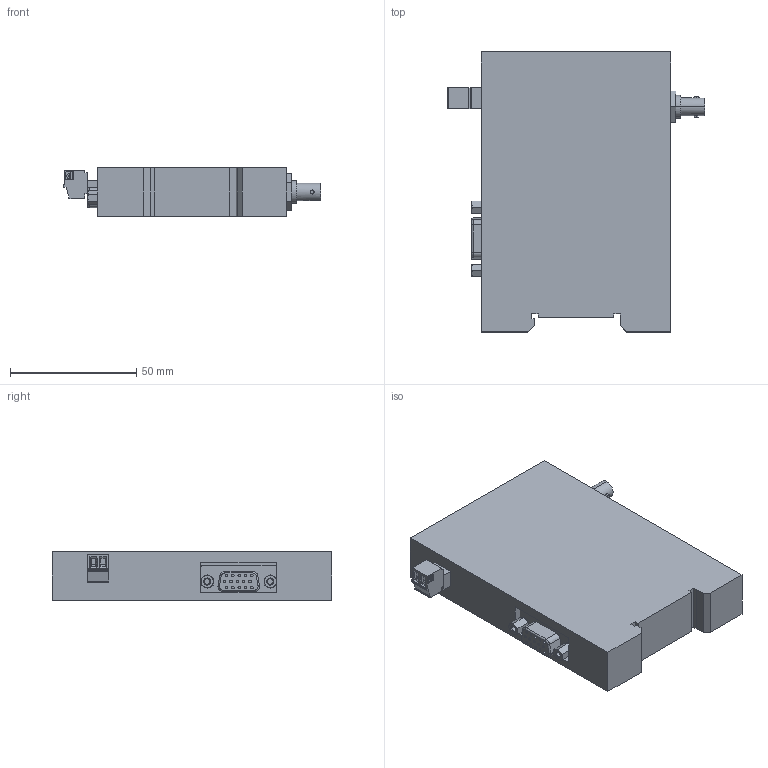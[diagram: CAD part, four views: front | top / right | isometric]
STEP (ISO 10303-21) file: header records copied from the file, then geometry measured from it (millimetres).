
FILE_DESCRIPTION (( 'STEP AP214' ), '1' );
FILE_NAME ('6.LWLE.51.STEP', '2019-05-07T13:41:40', ( '' ), ( '' ), 'SwSTEP 2.0', 'SolidWorks 2017', '' );
FILE_SCHEMA (( 'AUTOMOTIVE_DESIGN' ));
Length unit declared in the file: millimetre
Products named in the file (1): 6.LWLE.51
Bounding box: 102 x 110.8 x 19 mm (x, y, z)
Surface area: 26563.7 mm2 (no closed solid volume)
Topology: 0 solids, 12 shells, 220 faces, 704 edges, 492 vertices
Faces by surface type: plane 105, cylinder 82, cone 20, bspline 8, torus 5
Entity records: 10603 total; most frequent: CARTESIAN_POINT 2029, DIRECTION 1275, ORIENTED_EDGE 1186, EDGE_CURVE 704, VERTEX_POINT 492, AXIS2_PLACEMENT_3D 454, LINE 367, VECTOR 367
